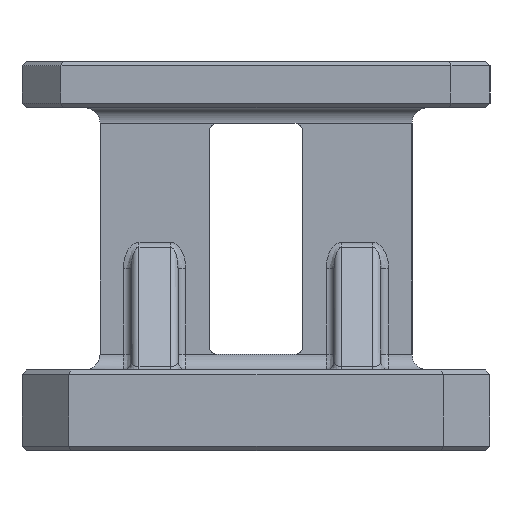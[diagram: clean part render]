
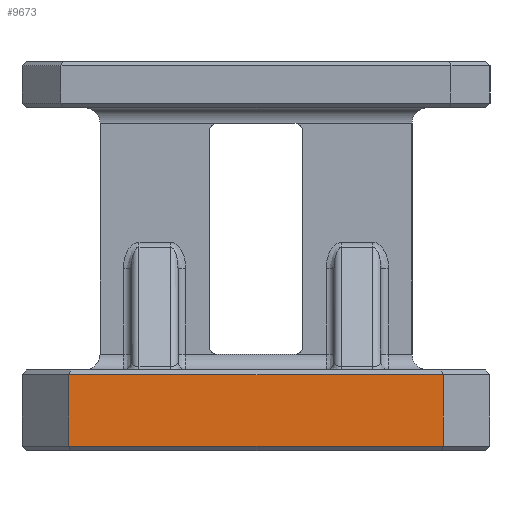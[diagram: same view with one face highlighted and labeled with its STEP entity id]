
A CAD part, left-side view. The second image highlights one B-rep face of the part: STEP entity #9673.
In plain terms, the highlighted planar face has unit normal (-1, 0, 0).
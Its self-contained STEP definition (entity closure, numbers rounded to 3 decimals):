
#797=DIRECTION('',(0.,1.,0.));
#798=VECTOR('',#797,240.);
#799=CARTESIAN_POINT('',(-300.,-120.,-23.));
#800=LINE('',#799,#798);
#801=DIRECTION('',(0.,0.,-1.));
#802=VECTOR('',#801,46.);
#803=CARTESIAN_POINT('',(-300.,120.,23.));
#804=LINE('',#803,#802);
#805=DIRECTION('',(0.,-1.,0.));
#806=VECTOR('',#805,240.);
#807=CARTESIAN_POINT('',(-300.,120.,23.));
#808=LINE('',#807,#806);
#809=DIRECTION('',(0.,0.,-1.));
#810=VECTOR('',#809,46.);
#811=CARTESIAN_POINT('',(-300.,-120.,23.));
#812=LINE('',#811,#810);
#7165=CARTESIAN_POINT('',(-300.,-120.,-23.));
#7166=CARTESIAN_POINT('',(-300.,120.,-23.));
#7167=VERTEX_POINT('',#7165);
#7168=VERTEX_POINT('',#7166);
#7227=CARTESIAN_POINT('',(-300.,120.,23.));
#7228=VERTEX_POINT('',#7227);
#7237=CARTESIAN_POINT('',(-300.,-120.,23.));
#7238=VERTEX_POINT('',#7237);
#9661=CARTESIAN_POINT('',(-300.,150.,-26.));
#9662=DIRECTION('',(-1.,0.,0.));
#9663=DIRECTION('',(0.,-1.,0.));
#9664=AXIS2_PLACEMENT_3D('',#9661,#9662,#9663);
#9665=PLANE('',#9664);
#9666=ORIENTED_EDGE('',*,*,#9471,.T.);
#9667=ORIENTED_EDGE('',*,*,#9502,.F.);
#9669=ORIENTED_EDGE('',*,*,#9668,.T.);
#9670=ORIENTED_EDGE('',*,*,#9641,.T.);
#9671=EDGE_LOOP('',(#9666,#9667,#9669,#9670));
#9672=FACE_OUTER_BOUND('',#9671,.F.);
#9673=ADVANCED_FACE('',(#9672),#9665,.T.);
#9471=EDGE_CURVE('',#7167,#7168,#800,.T.);
#9502=EDGE_CURVE('',#7228,#7168,#804,.T.);
#9641=EDGE_CURVE('',#7238,#7167,#812,.T.);
#9668=EDGE_CURVE('',#7228,#7238,#808,.T.);
